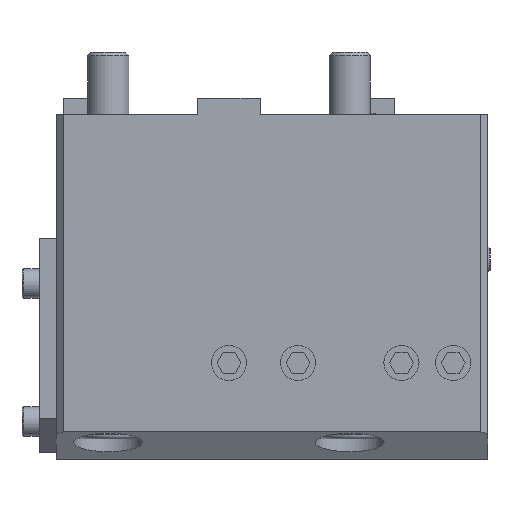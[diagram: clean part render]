
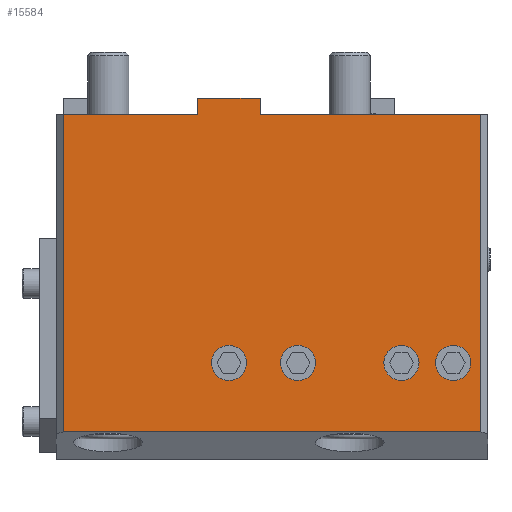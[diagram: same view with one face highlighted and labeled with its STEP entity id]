
A CAD part, front view. The second image highlights one B-rep face of the part: STEP entity #15584.
In plain terms, the highlighted planar face has unit normal (0, -1, 0).
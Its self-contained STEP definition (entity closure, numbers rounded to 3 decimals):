
#6888=CIRCLE('',#14808,5.1);
#6889=CIRCLE('',#14809,5.1);
#6890=CIRCLE('',#14810,5.1);
#6891=CIRCLE('',#14811,5.1);
#7084=ORIENTED_EDGE('',*,*,#9900,.T.);
#7085=ORIENTED_EDGE('',*,*,#9901,.F.);
#7086=ORIENTED_EDGE('',*,*,#9902,.F.);
#7087=ORIENTED_EDGE('',*,*,#9903,.T.);
#7088=ORIENTED_EDGE('',*,*,#9897,.F.);
#7089=ORIENTED_EDGE('',*,*,#9904,.F.);
#7090=ORIENTED_EDGE('',*,*,#9905,.T.);
#7091=ORIENTED_EDGE('',*,*,#9906,.T.);
#7092=ORIENTED_EDGE('',*,*,#9907,.F.);
#7093=ORIENTED_EDGE('',*,*,#9908,.F.);
#7094=ORIENTED_EDGE('',*,*,#9909,.F.);
#7095=ORIENTED_EDGE('',*,*,#9910,.F.);
#8429=VECTOR('',#11541,1.);
#8432=VECTOR('',#11546,1.);
#8433=VECTOR('',#11547,1.);
#8434=VECTOR('',#11548,1.);
#8435=VECTOR('',#11549,1.);
#8436=VECTOR('',#11550,1.);
#8437=VECTOR('',#11551,1.);
#8438=VECTOR('',#11552,1.);
#8925=LINE('',#13088,#8429);
#8928=LINE('',#13094,#8432);
#8929=LINE('',#13096,#8433);
#8930=LINE('',#13098,#8434);
#8931=LINE('',#13099,#8435);
#8932=LINE('',#13101,#8436);
#8933=LINE('',#13103,#8437);
#8934=LINE('',#13104,#8438);
#9419=VERTEX_POINT('',#13086);
#9420=VERTEX_POINT('',#13087);
#9421=VERTEX_POINT('',#13092);
#9422=VERTEX_POINT('',#13093);
#9423=VERTEX_POINT('',#13095);
#9424=VERTEX_POINT('',#13097);
#9425=VERTEX_POINT('',#13100);
#9426=VERTEX_POINT('',#13102);
#9427=VERTEX_POINT('',#13105);
#9428=VERTEX_POINT('',#13107);
#9429=VERTEX_POINT('',#13109);
#9430=VERTEX_POINT('',#13111);
#9897=EDGE_CURVE('',#9419,#9420,#8925,.T.);
#9900=EDGE_CURVE('',#9421,#9422,#8928,.T.);
#9901=EDGE_CURVE('',#9423,#9422,#8929,.T.);
#9902=EDGE_CURVE('',#9424,#9423,#8930,.T.);
#9903=EDGE_CURVE('',#9424,#9420,#8931,.T.);
#9904=EDGE_CURVE('',#9425,#9419,#8932,.T.);
#9905=EDGE_CURVE('',#9425,#9426,#8933,.T.);
#9906=EDGE_CURVE('',#9426,#9421,#8934,.T.);
#9907=EDGE_CURVE('',#9427,#9427,#6888,.T.);
#9908=EDGE_CURVE('',#9428,#9428,#6889,.T.);
#9909=EDGE_CURVE('',#9429,#9429,#6890,.T.);
#9910=EDGE_CURVE('',#9430,#9430,#6891,.T.);
#10557=EDGE_LOOP('',(#7084,#7085,#7086,#7087,#7088,#7089,#7090,#7091));
#10558=EDGE_LOOP('',(#7092));
#10559=EDGE_LOOP('',(#7093));
#10560=EDGE_LOOP('',(#7094));
#10561=EDGE_LOOP('',(#7095));
#11033=FACE_BOUND('',#10557,.T.);
#11034=FACE_BOUND('',#10558,.T.);
#11035=FACE_BOUND('',#10559,.T.);
#11036=FACE_BOUND('',#10560,.T.);
#11037=FACE_BOUND('',#10561,.T.);
#11541=DIRECTION('',(0.,0.,91.962));
#11544=DIRECTION('',(0.,-1.,0.));
#11545=DIRECTION('',(-1.,0.,0.));
#11546=DIRECTION('',(0.,0.,4.75));
#11547=DIRECTION('',(18.,0.,0.));
#11548=DIRECTION('',(0.,0.,4.75));
#11549=DIRECTION('',(-39.,0.,0.));
#11550=DIRECTION('',(-121.,0.,0.));
#11551=DIRECTION('',(0.,0.,91.962));
#11552=DIRECTION('',(-64.,0.,0.));
#11553=DIRECTION('',(0.,-1.,0.));
#11554=DIRECTION('',(0.,0.,5.1));
#11555=DIRECTION('',(0.,-1.,0.));
#11556=DIRECTION('',(0.,0.,5.1));
#11557=DIRECTION('',(0.,-1.,0.));
#11558=DIRECTION('',(0.,0.,5.1));
#11559=DIRECTION('',(0.,-1.,0.));
#11560=DIRECTION('',(0.,0.,5.1));
#13086=CARTESIAN_POINT('',(-48.,-48.,-91.962));
#13087=CARTESIAN_POINT('',(-48.,-48.,0.));
#13088=CARTESIAN_POINT('',(-48.,-48.,-91.962));
#13091=CARTESIAN_POINT('',(9.,-48.,-5.));
#13092=CARTESIAN_POINT('',(9.,-48.,0.));
#13093=CARTESIAN_POINT('',(9.,-48.,4.75));
#13094=CARTESIAN_POINT('',(9.,-48.,0.));
#13095=CARTESIAN_POINT('',(-9.,-48.,4.75));
#13096=CARTESIAN_POINT('',(-9.,-48.,4.75));
#13097=CARTESIAN_POINT('',(-9.,-48.,0.));
#13098=CARTESIAN_POINT('',(-9.,-48.,0.));
#13099=CARTESIAN_POINT('',(-9.,-48.,0.));
#13100=CARTESIAN_POINT('',(73.,-48.,-91.962));
#13101=CARTESIAN_POINT('',(73.,-48.,-91.962));
#13102=CARTESIAN_POINT('',(73.,-48.,0.));
#13103=CARTESIAN_POINT('',(73.,-48.,-91.962));
#13104=CARTESIAN_POINT('',(73.,-48.,0.));
#13105=CARTESIAN_POINT('',(65.,-48.,-66.9));
#13106=CARTESIAN_POINT('',(65.,-48.,-72.));
#13107=CARTESIAN_POINT('',(50.,-48.,-66.9));
#13108=CARTESIAN_POINT('',(50.,-48.,-72.));
#13109=CARTESIAN_POINT('',(20.,-48.,-66.9));
#13110=CARTESIAN_POINT('',(20.,-48.,-72.));
#13111=CARTESIAN_POINT('',(0.,-48.,-66.9));
#13112=CARTESIAN_POINT('',(0.,-48.,-72.));
#14807=AXIS2_PLACEMENT_3D('',#13091,#11544,#11545);
#14808=AXIS2_PLACEMENT_3D('',#13106,#11553,#11554);
#14809=AXIS2_PLACEMENT_3D('',#13108,#11555,#11556);
#14810=AXIS2_PLACEMENT_3D('',#13110,#11557,#11558);
#14811=AXIS2_PLACEMENT_3D('',#13112,#11559,#11560);
#15324=PLANE('',#14807);
#15584=ADVANCED_FACE('',(#11033,#11034,#11035,#11036,#11037),#15324,.T.);
